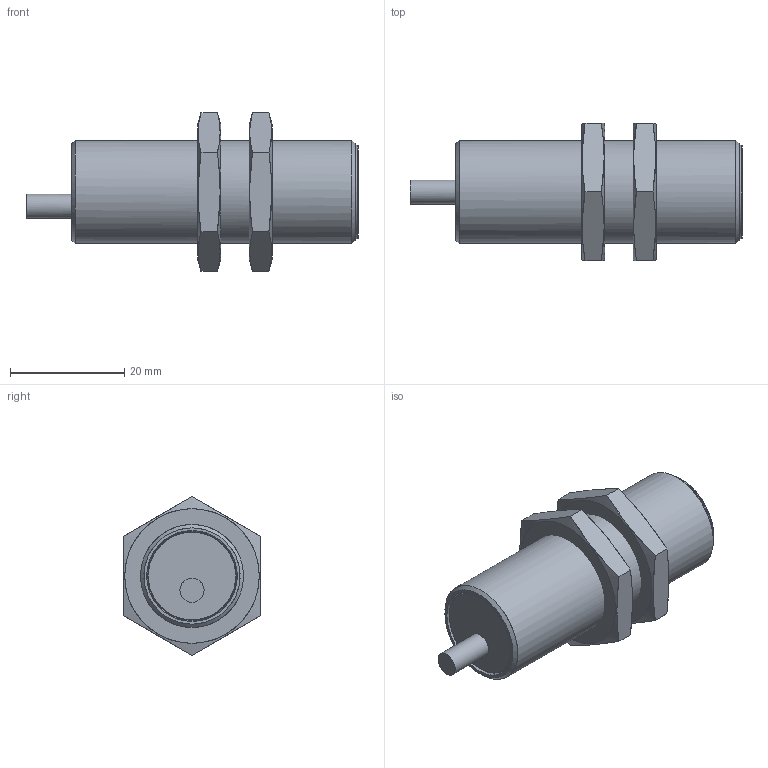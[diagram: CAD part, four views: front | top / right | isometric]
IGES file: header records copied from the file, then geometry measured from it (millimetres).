
Start section: C
Global section: file name: IFRM 18xxxA3_L.igs; native system:  By UGS Corp.; preprocessor: XPlus GENERIC/IGES 3.0; author: Author; organization: Title; date: 20111220.110722; units: millimetre
Bounding box: 58 x 24 x 27.71 mm (x, y, z)
Surface area: 5558.2 mm2 (no closed solid volume)
Topology: 0 solids, 0 shells, 50 faces, 272 edges, 272 vertices
Faces by surface type: bspline 50
